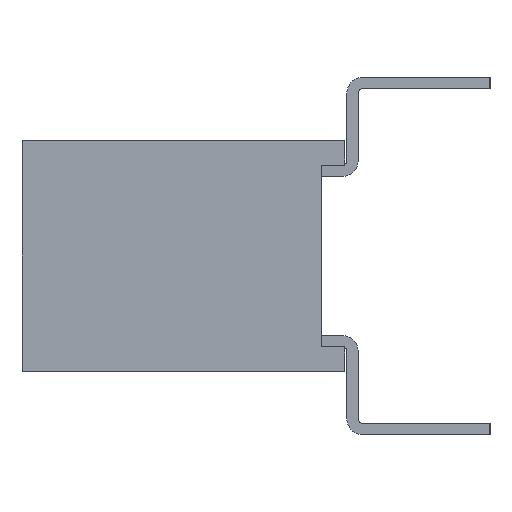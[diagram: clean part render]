
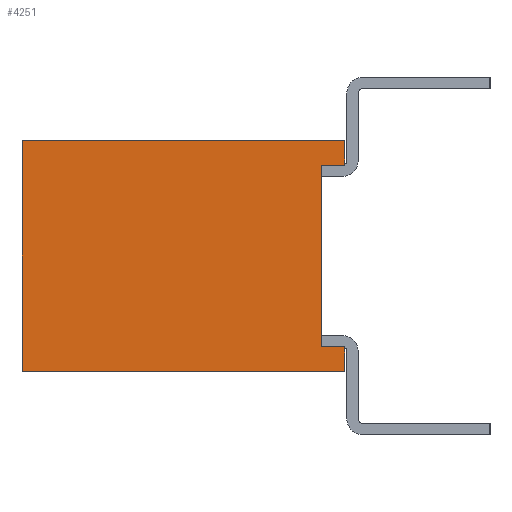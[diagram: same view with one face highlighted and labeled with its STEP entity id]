
A CAD part, left-side view. The second image highlights one B-rep face of the part: STEP entity #4251.
In plain terms, the highlighted planar face has unit normal (-1, 0, 0).
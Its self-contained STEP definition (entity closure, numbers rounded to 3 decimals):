
#213 = CARTESIAN_POINT ( 'NONE',  ( -34.29, 1.75, -0.5 ) ) ;
#850 = EDGE_CURVE ( 'NONE', #16041, #10809, #12187, .T. ) ;
#1095 = CARTESIAN_POINT ( 'NONE',  ( -34.29, 4., -5. ) ) ;
#1416 = LINE ( 'NONE', #23189, #27520 ) ;
#2964 = CARTESIAN_POINT ( 'NONE',  ( -34.29, 0., 0.04 ) ) ;
#3658 = DIRECTION ( 'NONE',  ( 0., 1., 0. ) ) ;
#4055 = EDGE_CURVE ( 'NONE', #16301, #19504, #1416, .T. ) ;
#4251 = ADVANCED_FACE ( 'NONE', ( #36312 ), #12099, .T. ) ;
#4912 = ORIENTED_EDGE ( 'NONE', *, *, #38916, .F. ) ;
#5460 = CARTESIAN_POINT ( 'NONE',  ( -34.29, 3.5, -4.5 ) ) ;
#8870 = DIRECTION ( 'NONE',  ( 0., 0., 1. ) ) ;
#9278 = VERTEX_POINT ( 'NONE', #27094 ) ;
#10809 = VERTEX_POINT ( 'NONE', #23199 ) ;
#10928 = EDGE_CURVE ( 'NONE', #11788, #13107, #36915, .T. ) ;
#10939 = DIRECTION ( 'NONE',  ( 0., -1., 0. ) ) ;
#11162 = VECTOR ( 'NONE', #15261, 1000. ) ;
#11319 = ORIENTED_EDGE ( 'NONE', *, *, #25915, .F. ) ;
#11337 = AXIS2_PLACEMENT_3D ( 'NONE', #12491, #15321, #8870 ) ;
#11788 = VERTEX_POINT ( 'NONE', #25353 ) ;
#12099 = PLANE ( 'NONE',  #11337 ) ;
#12187 = LINE ( 'NONE', #14605, #39280 ) ;
#12335 = LINE ( 'NONE', #30904, #28367 ) ;
#12491 = CARTESIAN_POINT ( 'NONE',  ( -34.29, 0., -5. ) ) ;
#13107 = VERTEX_POINT ( 'NONE', #36725 ) ;
#14525 = DIRECTION ( 'NONE',  ( 0., 0., 1. ) ) ;
#14605 = CARTESIAN_POINT ( 'NONE',  ( -34.29, 10.6, -5. ) ) ;
#15261 = DIRECTION ( 'NONE',  ( 0., 1., 0. ) ) ;
#15321 = DIRECTION ( 'NONE',  ( -1., 0., 0. ) ) ;
#15553 = ORIENTED_EDGE ( 'NONE', *, *, #28066, .F. ) ;
#15754 = CARTESIAN_POINT ( 'NONE',  ( -34.29, 4., -4.5 ) ) ;
#16041 = VERTEX_POINT ( 'NONE', #29617 ) ;
#16301 = VERTEX_POINT ( 'NONE', #37848 ) ;
#16803 = LINE ( 'NONE', #1095, #29762 ) ;
#18161 = CARTESIAN_POINT ( 'NONE',  ( -34.29, 3.5, -5. ) ) ;
#19504 = VERTEX_POINT ( 'NONE', #5460 ) ;
#20480 = EDGE_CURVE ( 'NONE', #13107, #10809, #30601, .T. ) ;
#22666 = DIRECTION ( 'NONE',  ( 0., 0., -1. ) ) ;
#23189 = CARTESIAN_POINT ( 'NONE',  ( -34.29, 3.5, -5. ) ) ;
#23199 = CARTESIAN_POINT ( 'NONE',  ( -34.29, 10.6, 0.04 ) ) ;
#23394 = DIRECTION ( 'NONE',  ( 0., 0., 1. ) ) ;
#23705 = ORIENTED_EDGE ( 'NONE', *, *, #20480, .T. ) ;
#24678 = EDGE_LOOP ( 'NONE', ( #11319, #34796, #26015, #15553, #4912, #26364, #23705, #32116 ) ) ;
#24725 = VERTEX_POINT ( 'NONE', #15754 ) ;
#25353 = CARTESIAN_POINT ( 'NONE',  ( -34.29, 3.5, -0.5 ) ) ;
#25695 = EDGE_CURVE ( 'NONE', #24725, #19504, #29306, .T. ) ;
#25915 = EDGE_CURVE ( 'NONE', #16301, #16041, #12335, .T. ) ;
#26015 = ORIENTED_EDGE ( 'NONE', *, *, #25695, .F. ) ;
#26364 = ORIENTED_EDGE ( 'NONE', *, *, #10928, .T. ) ;
#26914 = DIRECTION ( 'NONE',  ( 0., 0., 1. ) ) ;
#27094 = CARTESIAN_POINT ( 'NONE',  ( -34.29, 4., -0.5 ) ) ;
#27520 = VECTOR ( 'NONE', #23394, 1000. ) ;
#27838 = LINE ( 'NONE', #213, #37941 ) ;
#28066 = EDGE_CURVE ( 'NONE', #9278, #24725, #16803, .T. ) ;
#28367 = VECTOR ( 'NONE', #3658, 1000. ) ;
#29306 = LINE ( 'NONE', #38371, #38000 ) ;
#29617 = CARTESIAN_POINT ( 'NONE',  ( -34.29, 10.6, -5.04 ) ) ;
#29762 = VECTOR ( 'NONE', #22666, 1000. ) ;
#30601 = LINE ( 'NONE', #2964, #11162 ) ;
#30904 = CARTESIAN_POINT ( 'NONE',  ( -34.29, 0., -5.04 ) ) ;
#31059 = DIRECTION ( 'NONE',  ( 0., 1., 0. ) ) ;
#31787 = VECTOR ( 'NONE', #14525, 1000. ) ;
#32116 = ORIENTED_EDGE ( 'NONE', *, *, #850, .F. ) ;
#34796 = ORIENTED_EDGE ( 'NONE', *, *, #4055, .T. ) ;
#36312 = FACE_OUTER_BOUND ( 'NONE', #24678, .T. ) ;
#36725 = CARTESIAN_POINT ( 'NONE',  ( -34.29, 3.5, 0.04 ) ) ;
#36915 = LINE ( 'NONE', #18161, #31787 ) ;
#37848 = CARTESIAN_POINT ( 'NONE',  ( -34.29, 3.5, -5.04 ) ) ;
#37941 = VECTOR ( 'NONE', #31059, 1000. ) ;
#38000 = VECTOR ( 'NONE', #10939, 1000. ) ;
#38371 = CARTESIAN_POINT ( 'NONE',  ( -34.29, 1.75, -4.5 ) ) ;
#38916 = EDGE_CURVE ( 'NONE', #11788, #9278, #27838, .T. ) ;
#39280 = VECTOR ( 'NONE', #26914, 1000. ) ;
